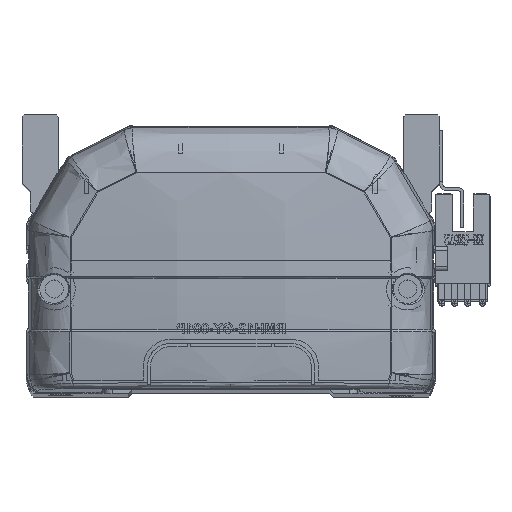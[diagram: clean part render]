
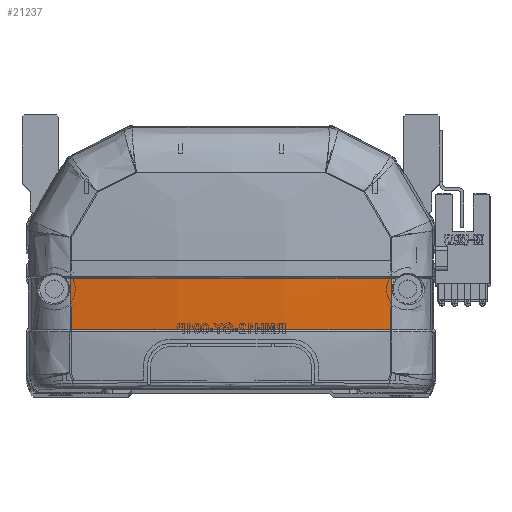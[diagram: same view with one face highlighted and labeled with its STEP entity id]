
A CAD part, top view. The second image highlights one B-rep face of the part: STEP entity #21237.
In plain terms, the highlighted free-form (B-spline) face has degree [3, 3] with [4, 4] control points.
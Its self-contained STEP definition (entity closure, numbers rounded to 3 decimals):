
#700 = CARTESIAN_POINT ( 'NONE',  ( -33.365, 15.83, -6.848 ) ) ;
#1961 = CARTESIAN_POINT ( 'NONE',  ( -40.461, 28.832, -6.296 ) ) ;
#2514 =( BOUNDED_SURFACE ( )  B_SPLINE_SURFACE ( 3, 3, ( 
 ( #33727, #33921, #38137, #57084 ),
 ( #6330, #25095, #51734, #20136 ),
 ( #29329, #47517, #34311, #56880 ),
 ( #10755, #20335, #24515, #1961 ) ),
 .UNSPECIFIED., .F., .F., .F. ) 
 B_SPLINE_SURFACE_WITH_KNOTS ( ( 4, 4 ),
 ( 4, 4 ),
 ( 0., 1. ),
 ( 0., 1. ),
 .UNSPECIFIED. ) 
 GEOMETRIC_REPRESENTATION_ITEM ( )  RATIONAL_B_SPLINE_SURFACE ( (
 ( 1., 1., 1., 1.),
 ( 0.992, 0.992, 0.992, 0.992),
 ( 0.992, 0.992, 0.992, 0.992),
 ( 1., 1., 1., 1.) ) ) 
 REPRESENTATION_ITEM ( '' )  SURFACE ( )  );
#3308 = ORIENTED_EDGE ( 'NONE', *, *, #4982, .F. ) ;
#3671 = CARTESIAN_POINT ( 'NONE',  ( -13.373, 28.707, -9.468 ) ) ;
#4330 = B_SPLINE_CURVE_WITH_KNOTS ( 'NONE', 3,
 ( #27089, #58642, #46455, #9897, #19063, #37468, #37666, #700, #23471, #55415 ),
 .UNSPECIFIED., .F., .F.,
 ( 4, 2, 2, 2, 4 ),
 ( 0., 0.04, 0.06, 0.07, 0.08 ),
 .UNSPECIFIED. ) ;
#4982 = EDGE_CURVE ( 'NONE', #49424, #38014, #4330, .T. ) ;
#5774 = ORIENTED_EDGE ( 'NONE', *, *, #27060, .T. ) ;
#6330 = CARTESIAN_POINT ( 'NONE',  ( 13.598, 15.499, -10.032 ) ) ;
#9897 = CARTESIAN_POINT ( 'NONE',  ( -6.692, 15.83, -8.984 ) ) ;
#10755 = CARTESIAN_POINT ( 'NONE',  ( -40.461, 15.757, -5.8 ) ) ;
#12010 = B_SPLINE_CURVE_WITH_KNOTS ( 'NONE', 3,
 ( #26253, #12478, #3671, #44456, #17072, #40249 ),
 .UNSPECIFIED., .F., .F.,
 ( 4, 2, 4 ),
 ( 0., 0.5, 1. ),
 .UNSPECIFIED. ) ;
#12478 = CARTESIAN_POINT ( 'NONE',  ( -26.748, 28.706, -8.432 ) ) ;
#13279 = CARTESIAN_POINT ( 'NONE',  ( -39.985, 15.83, -5.879 ) ) ;
#14759 = EDGE_LOOP ( 'NONE', ( #5774, #34448, #33424, #3308 ) ) ;
#14783 = VERTEX_POINT ( 'NONE', #27017 ) ;
#17072 = CARTESIAN_POINT ( 'NONE',  ( 26.749, 28.706, -8.432 ) ) ;
#17133 = CARTESIAN_POINT ( 'NONE',  ( 39.985, 15.83, -5.879 ) ) ;
#18567 = B_SPLINE_CURVE_WITH_KNOTS ( 'NONE', 3,
 ( #33999, #43211, #30595, #43990 ),
 .UNSPECIFIED., .F., .F.,
 ( 4, 4 ),
 ( 0., 1. ),
 .UNSPECIFIED. ) ;
#19063 = CARTESIAN_POINT ( 'NONE',  ( -13.384, 15.83, -8.724 ) ) ;
#20136 = CARTESIAN_POINT ( 'NONE',  ( 13.598, 28.769, -10.535 ) ) ;
#20335 = CARTESIAN_POINT ( 'NONE',  ( -40.461, 20.111, -6.066 ) ) ;
#21153 = FACE_OUTER_BOUND ( 'NONE', #14759, .T. ) ;
#21237 = ADVANCED_FACE ( 'NONE', ( #21153 ), #2514, .F. ) ;
#23471 = CARTESIAN_POINT ( 'NONE',  ( -36.679, 15.83, -6.395 ) ) ;
#24515 = CARTESIAN_POINT ( 'NONE',  ( -40.461, 24.47, -6.231 ) ) ;
#25095 = CARTESIAN_POINT ( 'NONE',  ( 13.598, 19.918, -10.302 ) ) ;
#26108 = CARTESIAN_POINT ( 'NONE',  ( 39.973, 20.12, -6.142 ) ) ;
#26253 = CARTESIAN_POINT ( 'NONE',  ( -39.963, 28.706, -6.372 ) ) ;
#27017 = CARTESIAN_POINT ( 'NONE',  ( 39.963, 28.706, -6.372 ) ) ;
#27060 = EDGE_CURVE ( 'NONE', #49424, #14783, #41007, .T. ) ;
#27089 = CARTESIAN_POINT ( 'NONE',  ( 39.985, 15.83, -5.879 ) ) ;
#29329 = CARTESIAN_POINT ( 'NONE',  ( -13.598, 15.499, -10.032 ) ) ;
#30595 = CARTESIAN_POINT ( 'NONE',  ( -39.973, 20.118, -6.142 ) ) ;
#30920 = CARTESIAN_POINT ( 'NONE',  ( 39.963, 28.706, -6.372 ) ) ;
#33424 = ORIENTED_EDGE ( 'NONE', *, *, #46834, .T. ) ;
#33727 = CARTESIAN_POINT ( 'NONE',  ( 40.461, 15.757, -5.8 ) ) ;
#33921 = CARTESIAN_POINT ( 'NONE',  ( 40.461, 20.111, -6.066 ) ) ;
#33999 = CARTESIAN_POINT ( 'NONE',  ( -39.963, 28.706, -6.372 ) ) ;
#34311 = CARTESIAN_POINT ( 'NONE',  ( -13.598, 24.342, -10.47 ) ) ;
#34448 = ORIENTED_EDGE ( 'NONE', *, *, #38015, .F. ) ;
#37468 = CARTESIAN_POINT ( 'NONE',  ( -23.389, 15.83, -7.947 ) ) ;
#37666 = CARTESIAN_POINT ( 'NONE',  ( -26.721, 15.83, -7.624 ) ) ;
#37963 = CARTESIAN_POINT ( 'NONE',  ( -39.963, 28.706, -6.372 ) ) ;
#38014 = VERTEX_POINT ( 'NONE', #13279 ) ;
#38015 = EDGE_CURVE ( 'NONE', #56149, #14783, #12010, .T. ) ;
#38137 = CARTESIAN_POINT ( 'NONE',  ( 40.461, 24.47, -6.231 ) ) ;
#40249 = CARTESIAN_POINT ( 'NONE',  ( 39.963, 28.706, -6.372 ) ) ;
#41007 = B_SPLINE_CURVE_WITH_KNOTS ( 'NONE', 3,
 ( #17133, #26108, #48926, #30920 ),
 .UNSPECIFIED., .F., .F.,
 ( 4, 4 ),
 ( 0., 1. ),
 .UNSPECIFIED. ) ;
#43211 = CARTESIAN_POINT ( 'NONE',  ( -39.966, 24.412, -6.306 ) ) ;
#43990 = CARTESIAN_POINT ( 'NONE',  ( -39.985, 15.83, -5.879 ) ) ;
#44456 = CARTESIAN_POINT ( 'NONE',  ( 13.375, 28.707, -9.468 ) ) ;
#46455 = CARTESIAN_POINT ( 'NONE',  ( 13.38, 15.83, -8.984 ) ) ;
#46834 = EDGE_CURVE ( 'NONE', #56149, #38014, #18567, .T. ) ;
#47517 = CARTESIAN_POINT ( 'NONE',  ( -13.598, 19.918, -10.302 ) ) ;
#48926 = CARTESIAN_POINT ( 'NONE',  ( 39.966, 24.413, -6.306 ) ) ;
#49424 = VERTEX_POINT ( 'NONE', #58372 ) ;
#51734 = CARTESIAN_POINT ( 'NONE',  ( 13.598, 24.342, -10.47 ) ) ;
#55415 = CARTESIAN_POINT ( 'NONE',  ( -39.985, 15.83, -5.879 ) ) ;
#56149 = VERTEX_POINT ( 'NONE', #37963 ) ;
#56880 = CARTESIAN_POINT ( 'NONE',  ( -13.598, 28.769, -10.535 ) ) ;
#57084 = CARTESIAN_POINT ( 'NONE',  ( 40.461, 28.832, -6.296 ) ) ;
#58372 = CARTESIAN_POINT ( 'NONE',  ( 39.985, 15.83, -5.879 ) ) ;
#58642 = CARTESIAN_POINT ( 'NONE',  ( 26.761, 15.83, -7.945 ) ) ;
